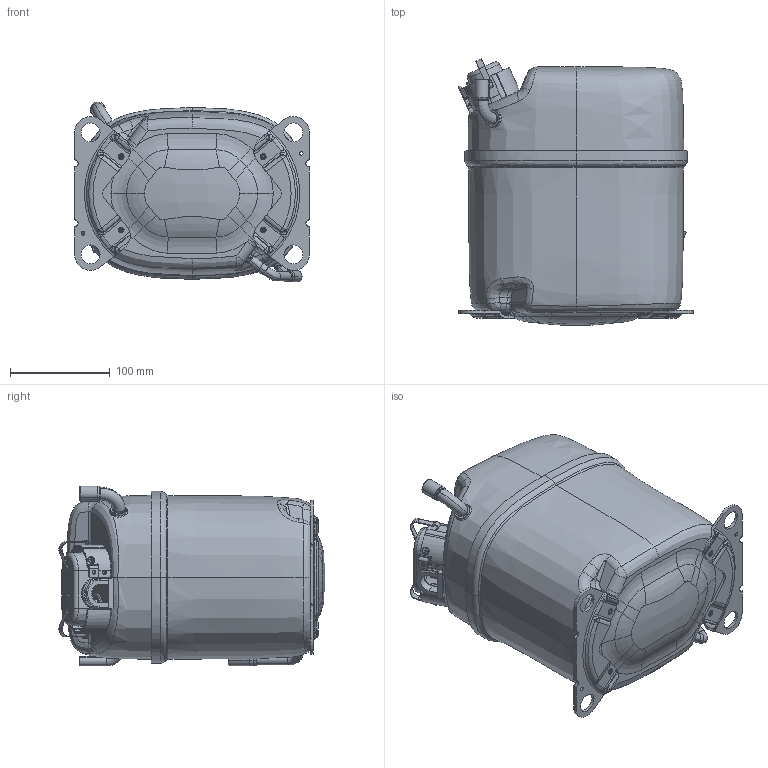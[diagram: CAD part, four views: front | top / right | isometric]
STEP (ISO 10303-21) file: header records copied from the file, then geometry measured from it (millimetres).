
FILE_DESCRIPTION((''),'2;1');
FILE_NAME('107B0701_GS34MFX_ASM','2025-01-24T08:08:03',('SKHC0530'),(''),'CREO PARAMETRIC BY PTC INC, 2022162','CREO PARAMETRIC BY PTC INC, 2022162','');
FILE_SCHEMA(('CONFIG_CONTROL_DESIGN'));
Products named in the file (30): 107B4000_ZSB_HUS_SKEL; 107B4440; 107B4400_AF0; 107B4300_ASM; 107B8560; 107B4444; 107B4400; 107B4304_ASM; 107B4443; 107B4303_ASM; 107B4220; 107B4820; 107B4200; 107B4900; 107B4632_GEBOGEN; 107B4650_AF0; 107B4636; 107B4600_ASM; 107B4000_ASM; 107B5000; 107B5332; 107B5451; 107B5505; 117-3618; 107B5600_AF1; 107B5004_ASM; 107B9100; 107B9101; 107B9104; 107B0701_GS34MFX_ASM
Assembly tree (33 placements, depth 4):
  107B0701_GS34MFX_ASM
    107B4000_ASM
      107B4000_ZSB_HUS_SKEL
      107B4300_ASM
        107B4440
        107B4400_AF0
      107B8560  x3
      107B4304_ASM
        107B4444
        107B4400
      107B4303_ASM
        107B4443
        107B4400
      107B4220
      107B4820
      107B4200  x2
      107B4900
      107B4600_ASM
        107B4632_GEBOGEN
        107B4650_AF0
        107B4636
    107B5004_ASM
      107B5000
      107B5332
      107B5451
      107B5505
      117-3618
      107B5600_AF1
    107B9100
    107B9101
    107B9104
Bounding box: 235.31 x 266.55 x 180.23 mm (x, y, z)
Volume: 843971 mm3; surface area: 585656 mm2
Topology: 28 solids, 34 shells, 2109 faces, 5067 edges, 3081 vertices
Faces by surface type: plane 704, cylinder 489, bspline 428, torus 275, cone 148, sphere 56, extrusion 9
Entity records: 86860 total; most frequent: CARTESIAN_POINT 43112, ORIENTED_EDGE 9196, DIRECTION 8811, EDGE_CURVE 4613, AXIS2_PLACEMENT_3D 3347, VERTEX_POINT 2828, VECTOR 2117, LINE 2108
